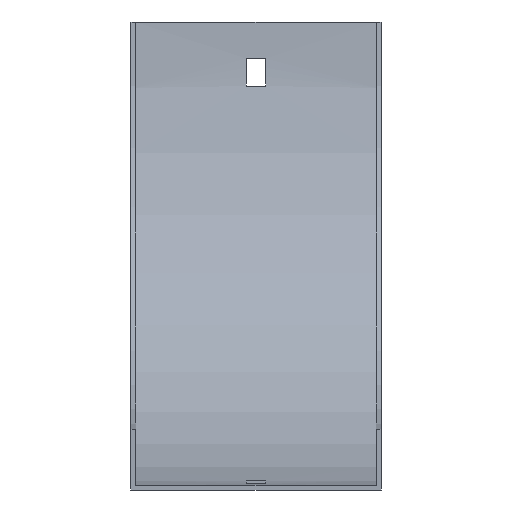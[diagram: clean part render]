
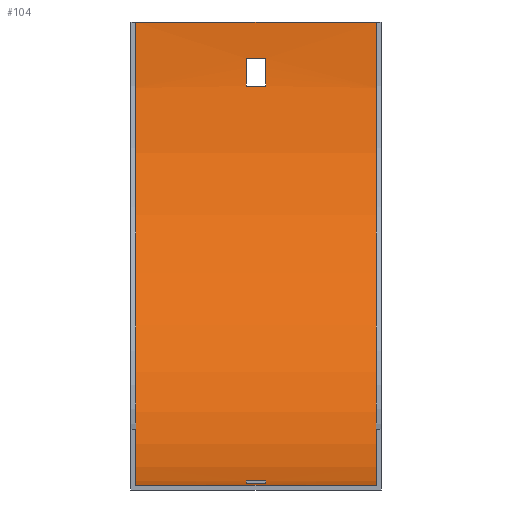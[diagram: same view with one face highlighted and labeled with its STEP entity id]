
A CAD part, front view. The second image highlights one B-rep face of the part: STEP entity #104.
In plain terms, the highlighted cylindrical face has radius 152 mm (diameter 304 mm), a partial arc.
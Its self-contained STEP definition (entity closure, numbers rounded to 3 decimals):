
#9 = VECTOR ( 'NONE', #422, 1000. ) ;
#15 = VERTEX_POINT ( 'NONE', #339 ) ;
#16 = DIRECTION ( 'NONE',  ( 0., 0., 1. ) ) ;
#18 = CIRCLE ( 'NONE', #116, 152. ) ;
#20 = VERTEX_POINT ( 'NONE', #526 ) ;
#23 = CARTESIAN_POINT ( 'NONE',  ( 3.25, -132.5, -150.542 ) ) ;
#26 = LINE ( 'NONE', #113, #125 ) ;
#29 = LINE ( 'NONE', #208, #499 ) ;
#39 = VECTOR ( 'NONE', #284, 1000. ) ;
#45 = CARTESIAN_POINT ( 'NONE',  ( 39.5, -1.5, 0. ) ) ;
#47 = EDGE_CURVE ( 'NONE', #20, #293, #54, .T. ) ;
#52 = CARTESIAN_POINT ( 'NONE',  ( 39.5, -153.5, -152. ) ) ;
#54 = LINE ( 'NONE', #239, #464 ) ;
#57 = EDGE_CURVE ( 'NONE', #567, #521, #146, .T. ) ;
#69 = DIRECTION ( 'NONE',  ( 1., 0., 0. ) ) ;
#74 = AXIS2_PLACEMENT_3D ( 'NONE', #376, #453, #558 ) ;
#75 = CARTESIAN_POINT ( 'NONE',  ( -3.25, -153.5, 0. ) ) ;
#76 = AXIS2_PLACEMENT_3D ( 'NONE', #101, #534, #16 ) ;
#77 = ORIENTED_EDGE ( 'NONE', *, *, #584, .F. ) ;
#83 = CARTESIAN_POINT ( 'NONE',  ( 41., -141.5, -151.526 ) ) ;
#93 = CARTESIAN_POINT ( 'NONE',  ( -39.5, -1.5, 0. ) ) ;
#101 = CARTESIAN_POINT ( 'NONE',  ( 39.5, -153.5, 0. ) ) ;
#103 = CARTESIAN_POINT ( 'NONE',  ( -3.25, -153.5, 0. ) ) ;
#104 = ADVANCED_FACE ( 'NONE', ( #407, #419, #606 ), #468, .F. ) ;
#110 = VERTEX_POINT ( 'NONE', #465 ) ;
#113 = CARTESIAN_POINT ( 'NONE',  ( 41., -1.974, -12. ) ) ;
#114 = VERTEX_POINT ( 'NONE', #559 ) ;
#116 = AXIS2_PLACEMENT_3D ( 'NONE', #103, #430, #191 ) ;
#125 = VECTOR ( 'NONE', #299, 1000. ) ;
#139 = VERTEX_POINT ( 'NONE', #45 ) ;
#143 = LINE ( 'NONE', #471, #9 ) ;
#146 = LINE ( 'NONE', #83, #529 ) ;
#159 = DIRECTION ( 'NONE',  ( 0., 0., -1. ) ) ;
#170 = AXIS2_PLACEMENT_3D ( 'NONE', #75, #69, #300 ) ;
#175 = CARTESIAN_POINT ( 'NONE',  ( 3.25, -153.5, 0. ) ) ;
#181 = EDGE_CURVE ( 'NONE', #293, #567, #335, .T. ) ;
#186 = ORIENTED_EDGE ( 'NONE', *, *, #295, .T. ) ;
#191 = DIRECTION ( 'NONE',  ( 0., 0., 1. ) ) ;
#193 = ORIENTED_EDGE ( 'NONE', *, *, #212, .F. ) ;
#198 = CARTESIAN_POINT ( 'NONE',  ( 3.25, -141.5, -151.526 ) ) ;
#208 = CARTESIAN_POINT ( 'NONE',  ( 39.5, -153.5, -152. ) ) ;
#212 = EDGE_CURVE ( 'NONE', #311, #463, #26, .T. ) ;
#219 = DIRECTION ( 'NONE',  ( 1., 0., 0. ) ) ;
#231 = DIRECTION ( 'NONE',  ( -1., 0., 0. ) ) ;
#235 = CIRCLE ( 'NONE', #170, 152. ) ;
#238 = CARTESIAN_POINT ( 'NONE',  ( 3.25, -1.974, -12. ) ) ;
#239 = CARTESIAN_POINT ( 'NONE',  ( 41., -132.5, -150.542 ) ) ;
#243 = EDGE_LOOP ( 'NONE', ( #450, #325, #186, #342 ) ) ;
#246 = EDGE_CURVE ( 'NONE', #139, #560, #484, .T. ) ;
#259 = ORIENTED_EDGE ( 'NONE', *, *, #603, .F. ) ;
#268 = CARTESIAN_POINT ( 'NONE',  ( 41., -153.5, 0. ) ) ;
#277 = CARTESIAN_POINT ( 'NONE',  ( -3.25, -141.5, -151.526 ) ) ;
#281 = CARTESIAN_POINT ( 'NONE',  ( -3.25, -1.974, -12. ) ) ;
#284 = DIRECTION ( 'NONE',  ( -1., 0., 0. ) ) ;
#293 = VERTEX_POINT ( 'NONE', #23 ) ;
#294 = AXIS2_PLACEMENT_3D ( 'NONE', #175, #364, #555 ) ;
#295 = EDGE_CURVE ( 'NONE', #298, #139, #425, .T. ) ;
#298 = VERTEX_POINT ( 'NONE', #52 ) ;
#299 = DIRECTION ( 'NONE',  ( -1., 0., 0. ) ) ;
#300 = DIRECTION ( 'NONE',  ( 0., 0., -1. ) ) ;
#311 = VERTEX_POINT ( 'NONE', #238 ) ;
#325 = ORIENTED_EDGE ( 'NONE', *, *, #438, .F. ) ;
#335 = CIRCLE ( 'NONE', #294, 152. ) ;
#339 = CARTESIAN_POINT ( 'NONE',  ( -3.25, -2.958, -21. ) ) ;
#342 = ORIENTED_EDGE ( 'NONE', *, *, #246, .T. ) ;
#347 = CARTESIAN_POINT ( 'NONE',  ( 39.5, -1.5, 0. ) ) ;
#353 = EDGE_CURVE ( 'NONE', #110, #311, #412, .T. ) ;
#357 = DIRECTION ( 'NONE',  ( -1., 0., 0. ) ) ;
#360 = AXIS2_PLACEMENT_3D ( 'NONE', #459, #219, #159 ) ;
#361 = DIRECTION ( 'NONE',  ( 0., 0., 1. ) ) ;
#364 = DIRECTION ( 'NONE',  ( -1., 0., 0. ) ) ;
#368 = EDGE_LOOP ( 'NONE', ( #421, #491, #508, #466 ) ) ;
#369 = CIRCLE ( 'NONE', #74, 152. ) ;
#376 = CARTESIAN_POINT ( 'NONE',  ( -39.5, -153.5, 0. ) ) ;
#396 = DIRECTION ( 'NONE',  ( -1., 0., 0. ) ) ;
#397 = EDGE_CURVE ( 'NONE', #521, #20, #235, .T. ) ;
#407 = FACE_BOUND ( 'NONE', #542, .T. ) ;
#412 = CIRCLE ( 'NONE', #360, 152. ) ;
#419 = FACE_OUTER_BOUND ( 'NONE', #243, .T. ) ;
#421 = ORIENTED_EDGE ( 'NONE', *, *, #57, .T. ) ;
#422 = DIRECTION ( 'NONE',  ( 1., 0., 0. ) ) ;
#425 = CIRCLE ( 'NONE', #76, 152. ) ;
#430 = DIRECTION ( 'NONE',  ( -1., 0., 0. ) ) ;
#438 = EDGE_CURVE ( 'NONE', #298, #114, #29, .T. ) ;
#450 = ORIENTED_EDGE ( 'NONE', *, *, #488, .F. ) ;
#453 = DIRECTION ( 'NONE',  ( 1., 0., 0. ) ) ;
#459 = CARTESIAN_POINT ( 'NONE',  ( 3.25, -153.5, 0. ) ) ;
#463 = VERTEX_POINT ( 'NONE', #281 ) ;
#464 = VECTOR ( 'NONE', #580, 1000. ) ;
#465 = CARTESIAN_POINT ( 'NONE',  ( 3.25, -2.958, -21. ) ) ;
#466 = ORIENTED_EDGE ( 'NONE', *, *, #181, .T. ) ;
#468 = CYLINDRICAL_SURFACE ( 'NONE', #479, 152. ) ;
#471 = CARTESIAN_POINT ( 'NONE',  ( 41., -2.958, -21. ) ) ;
#479 = AXIS2_PLACEMENT_3D ( 'NONE', #268, #231, #361 ) ;
#484 = LINE ( 'NONE', #347, #39 ) ;
#488 = EDGE_CURVE ( 'NONE', #114, #560, #369, .T. ) ;
#491 = ORIENTED_EDGE ( 'NONE', *, *, #397, .T. ) ;
#499 = VECTOR ( 'NONE', #396, 1000. ) ;
#500 = ORIENTED_EDGE ( 'NONE', *, *, #353, .F. ) ;
#508 = ORIENTED_EDGE ( 'NONE', *, *, #47, .T. ) ;
#521 = VERTEX_POINT ( 'NONE', #277 ) ;
#526 = CARTESIAN_POINT ( 'NONE',  ( -3.25, -132.5, -150.542 ) ) ;
#529 = VECTOR ( 'NONE', #357, 1000. ) ;
#534 = DIRECTION ( 'NONE',  ( 1., 0., 0. ) ) ;
#542 = EDGE_LOOP ( 'NONE', ( #77, #193, #500, #259 ) ) ;
#555 = DIRECTION ( 'NONE',  ( 0., 0., 1. ) ) ;
#558 = DIRECTION ( 'NONE',  ( 0., 0., 1. ) ) ;
#559 = CARTESIAN_POINT ( 'NONE',  ( -39.5, -153.5, -152. ) ) ;
#560 = VERTEX_POINT ( 'NONE', #93 ) ;
#567 = VERTEX_POINT ( 'NONE', #198 ) ;
#580 = DIRECTION ( 'NONE',  ( 1., 0., 0. ) ) ;
#584 = EDGE_CURVE ( 'NONE', #463, #15, #18, .T. ) ;
#603 = EDGE_CURVE ( 'NONE', #15, #110, #143, .T. ) ;
#606 = FACE_BOUND ( 'NONE', #368, .T. ) ;
